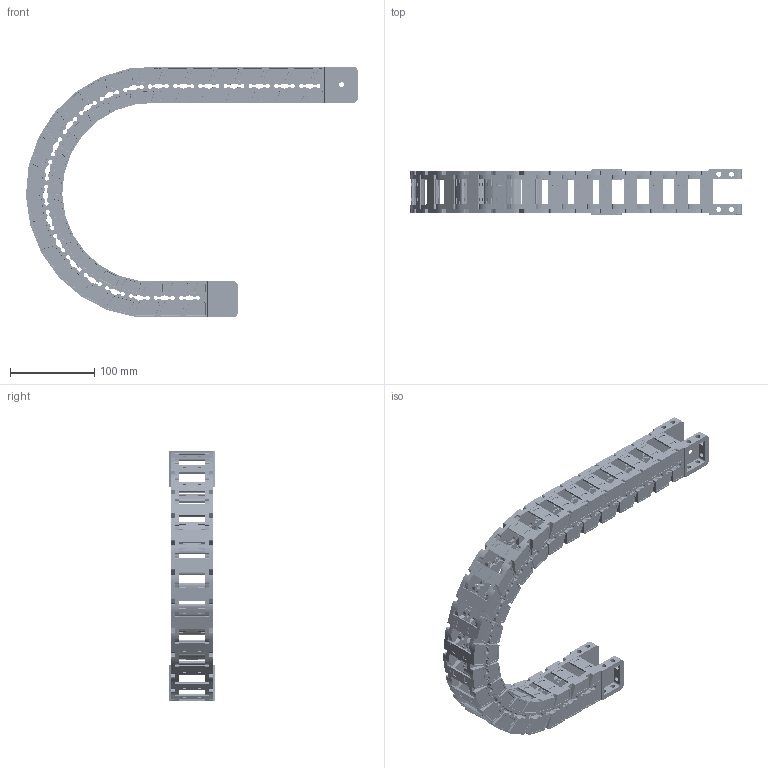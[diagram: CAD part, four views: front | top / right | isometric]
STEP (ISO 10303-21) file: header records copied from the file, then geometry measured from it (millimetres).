
FILE_DESCRIPTION((''),'2;1');
FILE_NAME('JY-35X30-R125_ASM','2025-01-05T19:36:19',('admin'),(''),'CREO PARAMETRIC BY PTC INC, 2021023','CREO PARAMETRIC BY PTC INC, 2021023','');
FILE_SCHEMA(('CONFIG_CONTROL_DESIGN'));
Length unit declared in the file: millimetre
Products named in the file (11): 35XL-L; YP; 35XL-R; ASM0001_ASM; 35-LTT-A-L; 35-LTT-A-R; 35XL-LTT-A_ASM; 35-LTT-B-L; 35-LTT-B-R; 35XL-LTT-B_ASM; JY-35X30-R125_ASM
Assembly tree (35 placements, depth 3):
  JY-35X30-R125_ASM
    ASM0001_ASM  x21
      35XL-L
      YP
      35XL-R
    35XL-LTT-A_ASM
      35-LTT-A-L
      YP  x2
      35-LTT-A-R
    35XL-LTT-B_ASM
      35-LTT-B-L
      YP  x2
      35-LTT-B-R
Bounding box: 395.09 x 54 x 298.23 mm (x, y, z)
Volume: 561037.3 mm3; surface area: 324735.1 mm2
Topology: 92 solids, 92 shells, 7504 faces, 22500 edges, 15188 vertices
Faces by surface type: plane 4246, cylinder 2466, cone 484, extrusion 176, bspline 132
Entity records: 27890 total; most frequent: CARTESIAN_POINT 6168, ORIENTED_EDGE 4640, DIRECTION 4365, EDGE_CURVE 2320, VERTEX_POINT 1568, AXIS2_PLACEMENT_3D 1474, VECTOR 1417, LINE 1401
